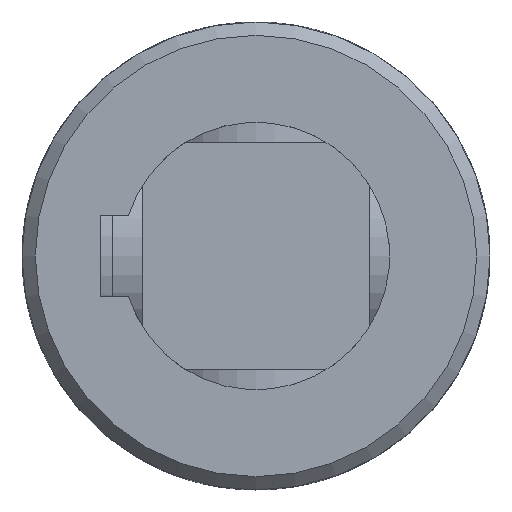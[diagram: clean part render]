
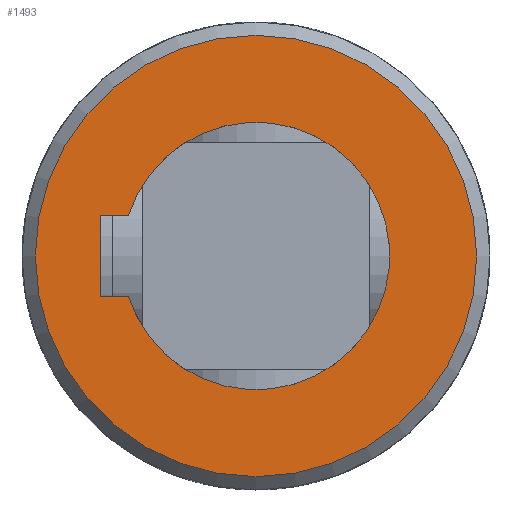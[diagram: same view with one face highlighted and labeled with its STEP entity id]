
A CAD part, front view. The second image highlights one B-rep face of the part: STEP entity #1493.
In plain terms, the highlighted planar face has unit normal (0, -1, 0).
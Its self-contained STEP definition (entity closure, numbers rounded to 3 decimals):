
#80=LINE('',#2948,#135);
#83=LINE('',#2961,#138);
#85=LINE('',#2967,#140);
#135=VECTOR('',#1946,4.221);
#138=VECTOR('',#1951,12.);
#140=VECTOR('',#1957,4.221);
#284=FACE_BOUND('',#512,.T.);
#386=FACE_OUTER_BOUND('',#511,.T.);
#511=EDGE_LOOP('',(#1277));
#512=EDGE_LOOP('',(#1278,#1279,#1280,#1281));
#589=CIRCLE('',#1637,20.);
#591=CIRCLE('',#1640,33.);
#712=VERTEX_POINT('',#2945);
#713=VERTEX_POINT('',#2947);
#715=VERTEX_POINT('',#2959);
#717=VERTEX_POINT('',#2965);
#723=VERTEX_POINT('',#3037);
#898=EDGE_CURVE('',#713,#712,#80,.T.);
#902=EDGE_CURVE('',#712,#715,#83,.T.);
#905=EDGE_CURVE('',#715,#717,#85,.T.);
#911=EDGE_CURVE('',#717,#713,#589,.T.);
#913=EDGE_CURVE('',#723,#723,#591,.T.);
#1277=ORIENTED_EDGE('',*,*,#913,.F.);
#1278=ORIENTED_EDGE('',*,*,#898,.T.);
#1279=ORIENTED_EDGE('',*,*,#902,.T.);
#1280=ORIENTED_EDGE('',*,*,#905,.T.);
#1281=ORIENTED_EDGE('',*,*,#911,.T.);
#1411=PLANE('',#1642);
#1493=ADVANCED_FACE('',(#386,#284),#1411,.F.);
#1637=AXIS2_PLACEMENT_3D('',#3033,#1966,#1967);
#1640=AXIS2_PLACEMENT_3D('',#3038,#1972,#1973);
#1642=AXIS2_PLACEMENT_3D('',#3270,#1980,#1981);
#1946=DIRECTION('',(0.,0.,-1.));
#1951=DIRECTION('',(-1.,0.,0.));
#1957=DIRECTION('',(0.,0.,1.));
#1966=DIRECTION('center_axis',(0.,1.,0.));
#1967=DIRECTION('ref_axis',(-0.3,0.,0.954));
#1972=DIRECTION('center_axis',(0.,1.,0.));
#1973=DIRECTION('ref_axis',(1.,0.,0.));
#1980=DIRECTION('center_axis',(0.,1.,0.));
#1981=DIRECTION('ref_axis',(0.,0.,1.));
#2945=CARTESIAN_POINT('',(6.,-100.,-23.3));
#2947=CARTESIAN_POINT('',(6.,-100.,-19.079));
#2948=CARTESIAN_POINT('',(6.,-100.,-9.539));
#2959=CARTESIAN_POINT('',(-6.,-100.,-23.3));
#2961=CARTESIAN_POINT('',(3.,-100.,-23.3));
#2965=CARTESIAN_POINT('',(-6.,-100.,-19.079));
#2967=CARTESIAN_POINT('',(-6.,-100.,-11.65));
#3033=CARTESIAN_POINT('Origin',(0.,-100.,0.));
#3037=CARTESIAN_POINT('',(-33.,-100.,0.));
#3038=CARTESIAN_POINT('Origin',(0.,-100.,0.));
#3270=CARTESIAN_POINT('Origin',(0.,-100.,0.));
